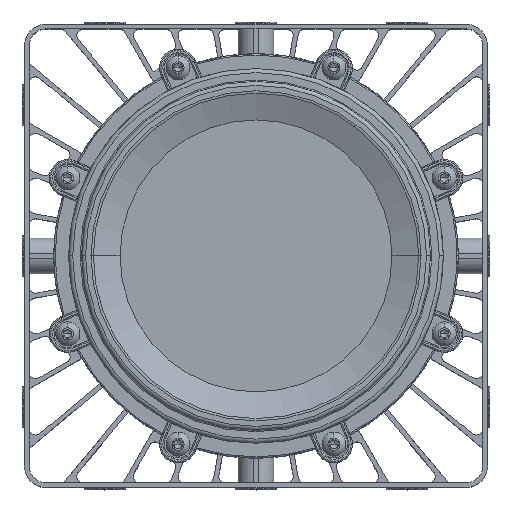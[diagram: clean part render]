
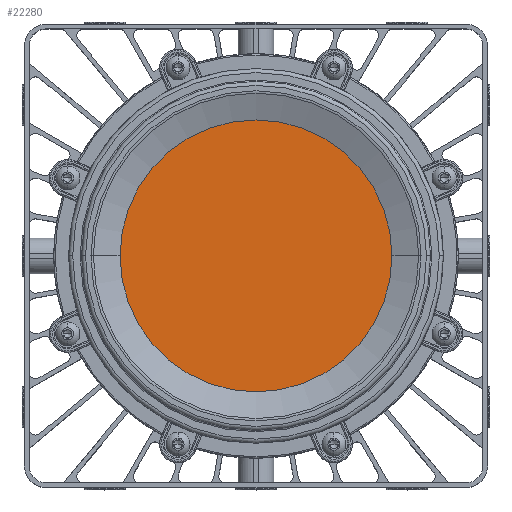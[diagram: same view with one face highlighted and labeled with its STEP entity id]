
A CAD part, top view. The second image highlights one B-rep face of the part: STEP entity #22280.
In plain terms, the highlighted planar face has unit normal (0, 0, 1).
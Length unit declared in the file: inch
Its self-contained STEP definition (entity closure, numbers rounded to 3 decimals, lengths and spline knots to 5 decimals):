
#4733 = DIRECTION ( 'NONE',  ( 1., 0., 0. ) ) ;
#6077 = CARTESIAN_POINT ( 'NONE',  ( 0., 0., -0.053 ) ) ;
#7386 = AXIS2_PLACEMENT_3D ( 'NONE', #36811, #17434, #40099 ) ;
#9026 = ORIENTED_EDGE ( 'NONE', *, *, #33142, .T. ) ;
#9346 = DIRECTION ( 'NONE',  ( 1., 0., 0. ) ) ;
#12911 = FACE_OUTER_BOUND ( 'NONE', #38952, .T. ) ;
#14100 = CIRCLE ( 'NONE', #38557, 2.045 ) ;
#14168 = CARTESIAN_POINT ( 'NONE',  ( -2.045, 0., -0.053 ) ) ;
#14382 = CARTESIAN_POINT ( 'NONE',  ( 0., 0., -0.053 ) ) ;
#15323 = VERTEX_POINT ( 'NONE', #14168 ) ;
#16991 = CIRCLE ( 'NONE', #7386, 2.045 ) ;
#17434 = DIRECTION ( 'NONE',  ( 0., 0., 1. ) ) ;
#17502 = CARTESIAN_POINT ( 'NONE',  ( 2.045, 0., -0.053 ) ) ;
#17872 = AXIS2_PLACEMENT_3D ( 'NONE', #14382, #24088, #4733 ) ;
#20696 = PLANE ( 'NONE',  #17872 ) ;
#22280 = ADVANCED_FACE ( 'NONE', ( #12911 ), #20696, .T. ) ;
#23922 = VERTEX_POINT ( 'NONE', #17502 ) ;
#24088 = DIRECTION ( 'NONE',  ( 0., 0., 1. ) ) ;
#26051 = ORIENTED_EDGE ( 'NONE', *, *, #31214, .T. ) ;
#28687 = DIRECTION ( 'NONE',  ( 0., 0., 1. ) ) ;
#31214 = EDGE_CURVE ( 'NONE', #23922, #15323, #14100, .T. ) ;
#33142 = EDGE_CURVE ( 'NONE', #15323, #23922, #16991, .T. ) ;
#36811 = CARTESIAN_POINT ( 'NONE',  ( 0., 0., -0.053 ) ) ;
#38557 = AXIS2_PLACEMENT_3D ( 'NONE', #6077, #28687, #9346 ) ;
#38952 = EDGE_LOOP ( 'NONE', ( #26051, #9026 ) ) ;
#40099 = DIRECTION ( 'NONE',  ( 1., 0., 0. ) ) ;
